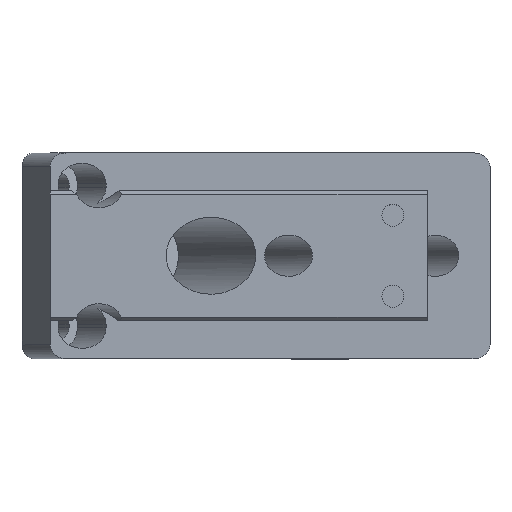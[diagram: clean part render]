
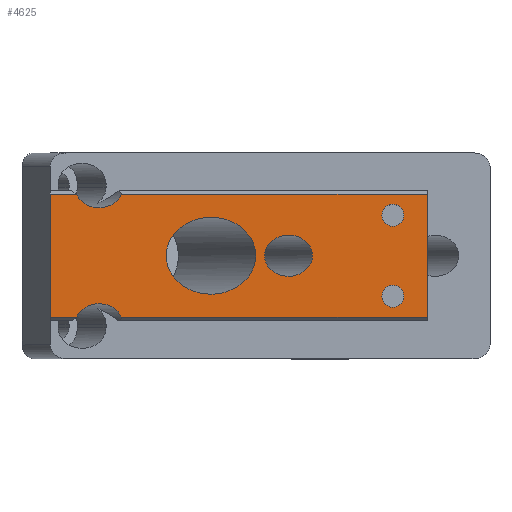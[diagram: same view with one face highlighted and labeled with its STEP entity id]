
A CAD part, top view. The second image highlights one B-rep face of the part: STEP entity #4625.
In plain terms, the highlighted planar face has unit normal (0, 0, 1).
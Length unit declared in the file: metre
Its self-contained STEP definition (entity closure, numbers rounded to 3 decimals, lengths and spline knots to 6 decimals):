
#210=ELLIPSE('',#4917,0.006533,0.0056);
#211=ELLIPSE('',#4918,0.0035,0.003);
#212=ELLIPSE('',#4921,0.0035,0.003);
#213=ELLIPSE('',#4922,0.0035,0.003);
#295=CIRCLE('',#4919,0.0016);
#296=CIRCLE('',#4920,0.0016);
#390=ORIENTED_EDGE('',*,*,#1796,.T.);
#391=ORIENTED_EDGE('',*,*,#1797,.T.);
#392=ORIENTED_EDGE('',*,*,#1798,.T.);
#393=ORIENTED_EDGE('',*,*,#1799,.T.);
#394=ORIENTED_EDGE('',*,*,#1800,.F.);
#395=ORIENTED_EDGE('',*,*,#1801,.T.);
#396=ORIENTED_EDGE('',*,*,#1802,.T.);
#397=ORIENTED_EDGE('',*,*,#1803,.T.);
#398=ORIENTED_EDGE('',*,*,#1804,.F.);
#399=ORIENTED_EDGE('',*,*,#1805,.T.);
#400=ORIENTED_EDGE('',*,*,#1806,.F.);
#401=ORIENTED_EDGE('',*,*,#1807,.T.);
#1796=EDGE_CURVE('',#2499,#2499,#210,.T.);
#1797=EDGE_CURVE('',#2500,#2500,#211,.T.);
#1798=EDGE_CURVE('',#2501,#2501,#295,.T.);
#1799=EDGE_CURVE('',#2502,#2502,#296,.T.);
#1800=EDGE_CURVE('',#2503,#2504,#212,.F.);
#1801=EDGE_CURVE('',#2503,#2505,#2953,.T.);
#1802=EDGE_CURVE('',#2505,#2506,#2954,.T.);
#1803=EDGE_CURVE('',#2506,#2507,#2955,.T.);
#1804=EDGE_CURVE('',#2508,#2507,#213,.F.);
#1805=EDGE_CURVE('',#2508,#2509,#2956,.T.);
#1806=EDGE_CURVE('',#2510,#2509,#2957,.T.);
#1807=EDGE_CURVE('',#2510,#2504,#2958,.T.);
#2499=VERTEX_POINT('',#6328);
#2500=VERTEX_POINT('',#6330);
#2501=VERTEX_POINT('',#6332);
#2502=VERTEX_POINT('',#6334);
#2503=VERTEX_POINT('',#6336);
#2504=VERTEX_POINT('',#6337);
#2505=VERTEX_POINT('',#6339);
#2506=VERTEX_POINT('',#6341);
#2507=VERTEX_POINT('',#6343);
#2508=VERTEX_POINT('',#6345);
#2509=VERTEX_POINT('',#6347);
#2510=VERTEX_POINT('',#6349);
#2953=LINE('',#6338,#3427);
#2954=LINE('',#6340,#3428);
#2955=LINE('',#6342,#3429);
#2956=LINE('',#6346,#3430);
#2957=LINE('',#6348,#3431);
#2958=LINE('',#6350,#3432);
#3427=VECTOR('',#5264,1.);
#3428=VECTOR('',#5265,1.);
#3429=VECTOR('',#5266,1.);
#3430=VECTOR('',#5269,1.);
#3431=VECTOR('',#5270,1.);
#3432=VECTOR('',#5271,1.);
#3888=EDGE_LOOP('',(#390));
#3889=EDGE_LOOP('',(#391));
#3890=EDGE_LOOP('',(#392));
#3891=EDGE_LOOP('',(#393));
#3892=EDGE_LOOP('',(#394,#395,#396,#397,#398,#399,#400,#401));
#4184=FACE_BOUND('',#3888,.T.);
#4185=FACE_BOUND('',#3889,.T.);
#4186=FACE_BOUND('',#3890,.T.);
#4187=FACE_BOUND('',#3891,.T.);
#4188=FACE_BOUND('',#3892,.T.);
#4472=PLANE('',#4916);
#4625=ADVANCED_FACE('',(#4184,#4185,#4186,#4187,#4188),#4472,.F.);
#4916=AXIS2_PLACEMENT_3D('',#6326,#5252,#5253);
#4917=AXIS2_PLACEMENT_3D('',#6327,#5254,#5255);
#4918=AXIS2_PLACEMENT_3D('',#6329,#5256,#5257);
#4919=AXIS2_PLACEMENT_3D('',#6331,#5258,#5259);
#4920=AXIS2_PLACEMENT_3D('',#6333,#5260,#5261);
#4921=AXIS2_PLACEMENT_3D('',#6335,#5262,#5263);
#4922=AXIS2_PLACEMENT_3D('',#6344,#5267,#5268);
#5252=DIRECTION('',(0.,0.,-1.));
#5253=DIRECTION('',(-1.,0.,0.));
#5254=DIRECTION('',(0.,0.,-1.));
#5255=DIRECTION('',(-1.,0.,0.));
#5256=DIRECTION('',(0.,0.,-1.));
#5257=DIRECTION('',(-1.,0.,0.));
#5258=DIRECTION('',(0.,0.,-1.));
#5259=DIRECTION('',(-1.,0.,0.));
#5260=DIRECTION('',(0.,0.,-1.));
#5261=DIRECTION('',(-1.,0.,0.));
#5262=DIRECTION('',(0.,0.,-1.));
#5263=DIRECTION('',(-1.,0.,0.));
#5264=DIRECTION('',(-1.,0.,0.));
#5265=DIRECTION('',(0.,-1.,0.));
#5266=DIRECTION('',(1.,0.,0.));
#5267=DIRECTION('',(0.,0.,-1.));
#5268=DIRECTION('',(-1.,0.,0.));
#5269=DIRECTION('',(1.,0.,0.));
#5270=DIRECTION('',(0.,-1.,0.));
#5271=DIRECTION('',(-1.,0.,0.));
#6326=CARTESIAN_POINT('',(0.055,0.,0.0041));
#6327=CARTESIAN_POINT('',(0.023463,0.,0.0041));
#6328=CARTESIAN_POINT('',(0.01693,0.,0.0041));
#6329=CARTESIAN_POINT('',(0.034779,0.,0.0041));
#6330=CARTESIAN_POINT('',(0.031279,0.,0.0041));
#6331=CARTESIAN_POINT('',(0.05,0.0059,0.0041));
#6332=CARTESIAN_POINT('',(0.0484,0.0059,0.0041));
#6333=CARTESIAN_POINT('',(0.05,-0.0059,0.0041));
#6334=CARTESIAN_POINT('',(0.0484,-0.0059,0.0041));
#6335=CARTESIAN_POINT('',(0.00713,0.01,0.0041));
#6336=CARTESIAN_POINT('',(0.003829,0.009004,0.0041));
#6337=CARTESIAN_POINT('',(0.010432,0.009004,0.0041));
#6338=CARTESIAN_POINT('',(0.,0.009004,0.0041));
#6339=CARTESIAN_POINT('',(0.,0.009004,0.0041));
#6340=CARTESIAN_POINT('',(0.,0.,0.0041));
#6341=CARTESIAN_POINT('',(0.,-0.009004,0.0041));
#6342=CARTESIAN_POINT('',(0.055,-0.009004,0.0041));
#6343=CARTESIAN_POINT('',(0.003829,-0.009004,0.0041));
#6344=CARTESIAN_POINT('',(0.00713,-0.01,0.0041));
#6345=CARTESIAN_POINT('',(0.010432,-0.009004,0.0041));
#6346=CARTESIAN_POINT('',(0.055,-0.009004,0.0041));
#6347=CARTESIAN_POINT('',(0.055,-0.009004,0.0041));
#6348=CARTESIAN_POINT('',(0.055,0.,0.0041));
#6349=CARTESIAN_POINT('',(0.055,0.009004,0.0041));
#6350=CARTESIAN_POINT('',(0.,0.009004,0.0041));
